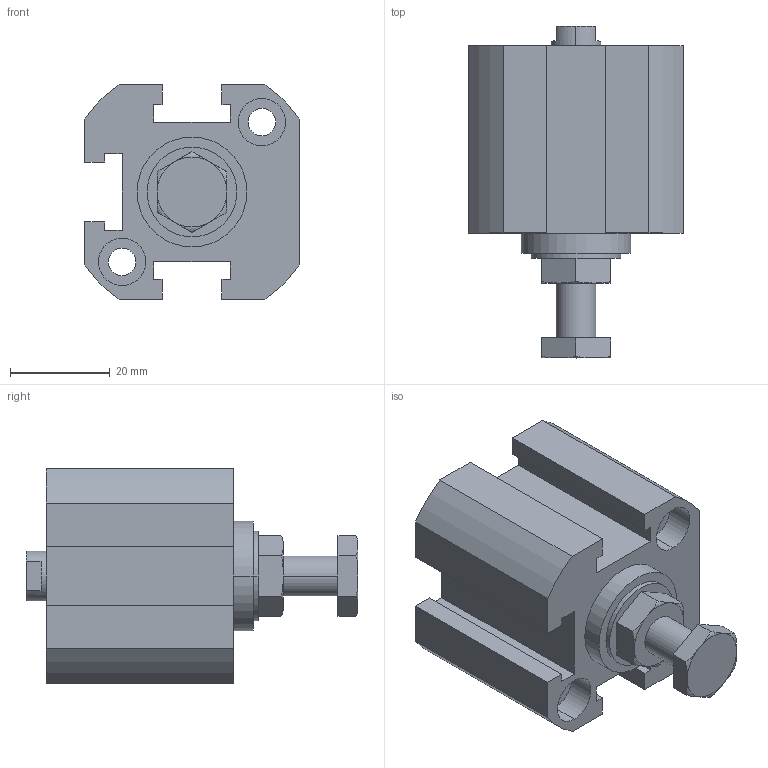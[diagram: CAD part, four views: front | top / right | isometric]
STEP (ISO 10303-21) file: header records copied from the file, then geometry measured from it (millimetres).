
FILE_DESCRIPTION (( 'STEP AP203' ), '1' );
FILE_NAME ('XGA2-25-10.STEP', '2016-05-24T02:40:05', ( '' ), ( '' ), 'SwSTEP 2.0', 'SolidWorks 2014', '' );
FILE_SCHEMA (( 'CONFIG_CONTROL_DESIGN' ));
Length unit declared in the file: millimetre
Products named in the file (3): XG#2-25-10; X#A2-25-H; XGA2-25-10
Assembly tree (2 placements, depth 2):
  XGA2-25-10
    XG#2-25-10
    X#A2-25-H
Bounding box: 43 x 66.5 x 43 mm (x, y, z)
Volume: 54922 mm3; surface area: 15719.3 mm2
Topology: 2 solids, 2 shells, 128 faces, 313 edges, 199 vertices
Faces by surface type: plane 62, cylinder 48, torus 12, cone 6
Entity records: 4256 total; most frequent: CARTESIAN_POINT 903, DIRECTION 661, ORIENTED_EDGE 614, EDGE_CURVE 307, AXIS2_PLACEMENT_3D 245, VERTEX_POINT 199, VECTOR 171, LINE 171
